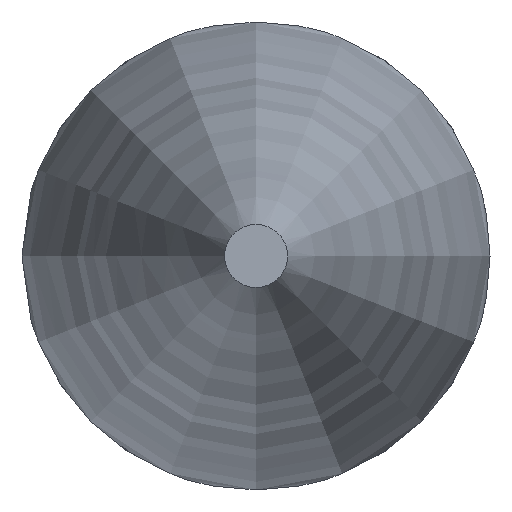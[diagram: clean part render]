
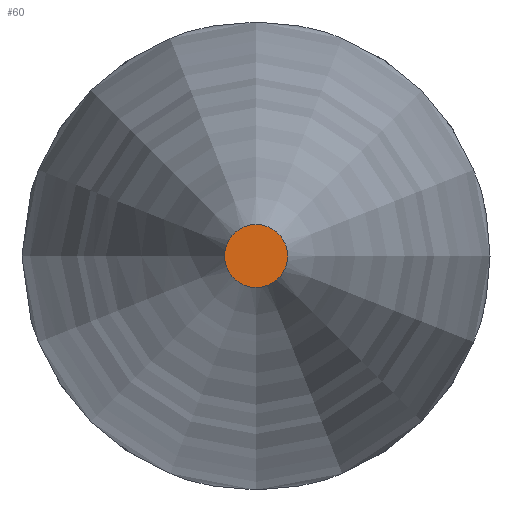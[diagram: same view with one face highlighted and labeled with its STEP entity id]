
A CAD part, left-side view. The second image highlights one B-rep face of the part: STEP entity #60.
In plain terms, the highlighted planar face has unit normal (-1, 0, 0).
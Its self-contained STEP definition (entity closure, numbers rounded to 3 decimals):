
#44=CARTESIAN_POINT('',(600.0,84.0,0.0));
#45=DIRECTION('',(-1.0,0.0,0.0));
#46=DIRECTION('',(0.0,0.0,1.0));
#47=AXIS2_PLACEMENT_3D('',#44,#45,#46);
#48=PLANE('',#47);
#49=CARTESIAN_POINT('',(600.0,168.0,0.0));
#50=VERTEX_POINT('',#49);
#51=CARTESIAN_POINT('',(600.0,0.0,0.0));
#52=DIRECTION('',(1.0,0.0,0.0));
#53=DIRECTION('',(0.0,1.0,0.0));
#54=AXIS2_PLACEMENT_3D('',#51,#52,#53);
#55=CIRCLE('',#54,168.0);
#56=EDGE_CURVE('',#50,#50,#55,.T.);
#57=ORIENTED_EDGE('',*,*,#56,.F.);
#58=EDGE_LOOP('',(#57));
#59=FACE_OUTER_BOUND('',#58,.T.);
#60=ADVANCED_FACE('',(#59),#48,.T.);
